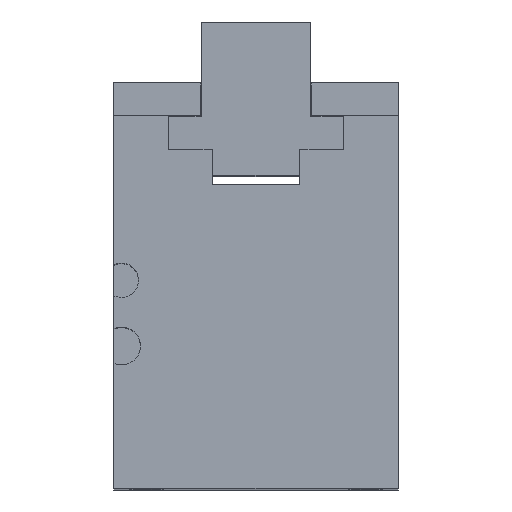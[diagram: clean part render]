
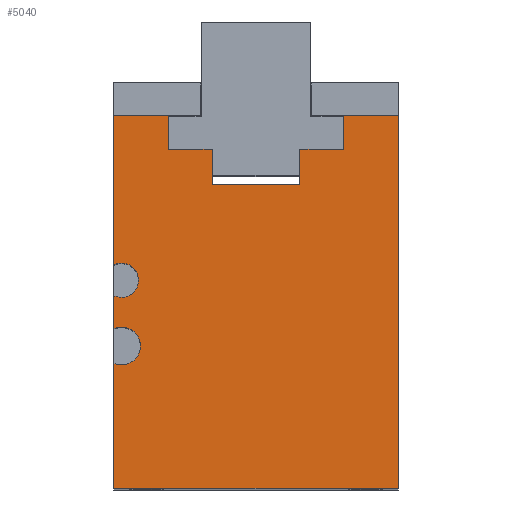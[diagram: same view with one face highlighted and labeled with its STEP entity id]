
A CAD part, top view. The second image highlights one B-rep face of the part: STEP entity #5040.
In plain terms, the highlighted planar face has unit normal (0, 0, 1).
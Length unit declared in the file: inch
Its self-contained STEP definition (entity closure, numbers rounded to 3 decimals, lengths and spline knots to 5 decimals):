
#45 = ORIENTED_EDGE ( 'NONE', *, *, #6990, .F. ) ;
#89 = LINE ( 'NONE', #169, #4414 ) ;
#109 = ORIENTED_EDGE ( 'NONE', *, *, #2727, .T. ) ;
#113 = CARTESIAN_POINT ( 'NONE',  ( 0., 0., 0. ) ) ;
#169 = CARTESIAN_POINT ( 'NONE',  ( 0.3125, 1.935, 0. ) ) ;
#236 = EDGE_CURVE ( 'NONE', #2855, #1654, #89, .T. ) ;
#293 = VECTOR ( 'NONE', #2076, 39.37008 ) ;
#318 = VERTEX_POINT ( 'NONE', #7624 ) ;
#323 = AXIS2_PLACEMENT_3D ( 'NONE', #777, #5080, #1403 ) ;
#377 = VERTEX_POINT ( 'NONE', #4985 ) ;
#407 = VERTEX_POINT ( 'NONE', #625 ) ;
#426 = ORIENTED_EDGE ( 'NONE', *, *, #6592, .T. ) ;
#448 = EDGE_CURVE ( 'NONE', #2346, #1259, #3664, .T. ) ;
#625 = CARTESIAN_POINT ( 'NONE',  ( 1.625, 2.125, 0. ) ) ;
#652 = VECTOR ( 'NONE', #2521, 39.37008 ) ;
#702 = VERTEX_POINT ( 'NONE', #4238 ) ;
#740 = LINE ( 'NONE', #5365, #5435 ) ;
#777 = CARTESIAN_POINT ( 'NONE',  ( 0.045, 1.1875, 0. ) ) ;
#853 = LINE ( 'NONE', #2688, #652 ) ;
#880 = VECTOR ( 'NONE', #6835, 39.37008 ) ;
#913 = VERTEX_POINT ( 'NONE', #1521 ) ;
#1030 = VERTEX_POINT ( 'NONE', #7077 ) ;
#1259 = VERTEX_POINT ( 'NONE', #5540 ) ;
#1318 = EDGE_CURVE ( 'NONE', #318, #702, #7667, .T. ) ;
#1403 = DIRECTION ( 'NONE',  ( -1., 0., 0. ) ) ;
#1452 = CARTESIAN_POINT ( 'NONE',  ( 0., 0., 0. ) ) ;
#1482 = DIRECTION ( 'NONE',  ( 0., 0., -1. ) ) ;
#1521 = CARTESIAN_POINT ( 'NONE',  ( 0., 1.27457, 0. ) ) ;
#1563 = CARTESIAN_POINT ( 'NONE',  ( 0.14301, 1.1875, 0. ) ) ;
#1634 = VECTOR ( 'NONE', #6276, 39.37008 ) ;
#1654 = VERTEX_POINT ( 'NONE', #5237 ) ;
#1680 = LINE ( 'NONE', #4677, #3337 ) ;
#1773 = CARTESIAN_POINT ( 'NONE',  ( 0., 2.125, 0. ) ) ;
#2021 = DIRECTION ( 'NONE',  ( 0., 1., 0. ) ) ;
#2066 = VECTOR ( 'NONE', #6999, 39.37008 ) ;
#2076 = DIRECTION ( 'NONE',  ( 0., -1., 0. ) ) ;
#2156 = EDGE_CURVE ( 'NONE', #377, #3840, #853, .T. ) ;
#2326 = VERTEX_POINT ( 'NONE', #5112 ) ;
#2346 = VERTEX_POINT ( 'NONE', #7076 ) ;
#2380 = VECTOR ( 'NONE', #3780, 39.37008 ) ;
#2399 = VERTEX_POINT ( 'NONE', #1563 ) ;
#2402 = DIRECTION ( 'NONE',  ( -1., 0., 0. ) ) ;
#2406 = ORIENTED_EDGE ( 'NONE', *, *, #2156, .F. ) ;
#2497 = LINE ( 'NONE', #1773, #5539 ) ;
#2521 = DIRECTION ( 'NONE',  ( 0., 1., 0. ) ) ;
#2564 = VECTOR ( 'NONE', #2021, 39.37008 ) ;
#2597 = CARTESIAN_POINT ( 'NONE',  ( 1.625, 0., 0. ) ) ;
#2637 = ORIENTED_EDGE ( 'NONE', *, *, #6150, .F. ) ;
#2641 = DIRECTION ( 'NONE',  ( 0., 0., -1. ) ) ;
#2646 = AXIS2_PLACEMENT_3D ( 'NONE', #6306, #2641, #6930 ) ;
#2688 = CARTESIAN_POINT ( 'NONE',  ( 1.0625, 1.935, 0. ) ) ;
#2721 = VERTEX_POINT ( 'NONE', #6034 ) ;
#2727 = EDGE_CURVE ( 'NONE', #407, #2721, #2497, .T. ) ;
#2735 = CARTESIAN_POINT ( 'NONE',  ( 0., 0., 0. ) ) ;
#2855 = VERTEX_POINT ( 'NONE', #4962 ) ;
#2903 = AXIS2_PLACEMENT_3D ( 'NONE', #5267, #7757, #4074 ) ;
#3024 = EDGE_CURVE ( 'NONE', #5024, #2721, #740, .T. ) ;
#3100 = ORIENTED_EDGE ( 'NONE', *, *, #448, .T. ) ;
#3174 = CARTESIAN_POINT ( 'NONE',  ( 1.0625, 1.935, 0. ) ) ;
#3337 = VECTOR ( 'NONE', #3460, 39.37008 ) ;
#3460 = DIRECTION ( 'NONE',  ( 0., -1., 0. ) ) ;
#3573 = LINE ( 'NONE', #3870, #5002 ) ;
#3623 = DIRECTION ( 'NONE',  ( 0., 0., -1. ) ) ;
#3664 = LINE ( 'NONE', #113, #1634 ) ;
#3780 = DIRECTION ( 'NONE',  ( 1., 0., 0. ) ) ;
#3814 = LINE ( 'NONE', #3174, #2380 ) ;
#3829 = EDGE_CURVE ( 'NONE', #1259, #7315, #6268, .T. ) ;
#3840 = VERTEX_POINT ( 'NONE', #6618 ) ;
#3870 = CARTESIAN_POINT ( 'NONE',  ( 0.5625, 1.735, 0. ) ) ;
#3966 = LINE ( 'NONE', #1452, #293 ) ;
#4074 = DIRECTION ( 'NONE',  ( -1., 0., 0. ) ) ;
#4198 = EDGE_CURVE ( 'NONE', #5113, #2855, #5783, .T. ) ;
#4220 = ORIENTED_EDGE ( 'NONE', *, *, #7346, .T. ) ;
#4234 = AXIS2_PLACEMENT_3D ( 'NONE', #5151, #1482, #5771 ) ;
#4238 = CARTESIAN_POINT ( 'NONE',  ( 0.15348, 0.8125, 0. ) ) ;
#4360 = ORIENTED_EDGE ( 'NONE', *, *, #236, .F. ) ;
#4414 = VECTOR ( 'NONE', #4470, 39.37008 ) ;
#4436 = VECTOR ( 'NONE', #5342, 39.37008 ) ;
#4470 = DIRECTION ( 'NONE',  ( 1., 0., 0. ) ) ;
#4477 = CARTESIAN_POINT ( 'NONE',  ( 1.625, 0., 0. ) ) ;
#4646 = CIRCLE ( 'NONE', #323, 0.09801 ) ;
#4677 = CARTESIAN_POINT ( 'NONE',  ( 0.5625, 1.935, 0. ) ) ;
#4824 = EDGE_CURVE ( 'NONE', #702, #2346, #7038, .T. ) ;
#4878 = EDGE_CURVE ( 'NONE', #1030, #318, #3966, .T. ) ;
#4880 = EDGE_CURVE ( 'NONE', #2326, #377, #3573, .T. ) ;
#4962 = CARTESIAN_POINT ( 'NONE',  ( 0.3125, 1.935, 0. ) ) ;
#4985 = CARTESIAN_POINT ( 'NONE',  ( 1.0625, 1.735, 0. ) ) ;
#5002 = VECTOR ( 'NONE', #6358, 39.37008 ) ;
#5024 = VERTEX_POINT ( 'NONE', #5245 ) ;
#5040 = ADVANCED_FACE ( 'NONE', ( #5864 ), #7136, .F. ) ;
#5074 = CARTESIAN_POINT ( 'NONE',  ( 0., 2.125, 0. ) ) ;
#5080 = DIRECTION ( 'NONE',  ( 0., 0., -1. ) ) ;
#5092 = EDGE_LOOP ( 'NONE', ( #6211, #6898, #6503, #3100, #6047, #6235, #109, #5903, #2637, #2406, #5951, #45, #4360, #6021, #426, #6316, #5962, #4220 ) ) ;
#5112 = CARTESIAN_POINT ( 'NONE',  ( 0.5625, 1.735, 0. ) ) ;
#5113 = VERTEX_POINT ( 'NONE', #7814 ) ;
#5151 = CARTESIAN_POINT ( 'NONE',  ( 0.045, 1.1875, 0. ) ) ;
#5237 = CARTESIAN_POINT ( 'NONE',  ( 0.5625, 1.935, 0. ) ) ;
#5245 = CARTESIAN_POINT ( 'NONE',  ( 1.3125, 1.935, 0. ) ) ;
#5267 = CARTESIAN_POINT ( 'NONE',  ( 0., 0., 0. ) ) ;
#5342 = DIRECTION ( 'NONE',  ( 1., 0., 0. ) ) ;
#5365 = CARTESIAN_POINT ( 'NONE',  ( 1.3125, 2.125, 0. ) ) ;
#5406 = CIRCLE ( 'NONE', #4234, 0.09801 ) ;
#5435 = VECTOR ( 'NONE', #7837, 39.37008 ) ;
#5493 = LINE ( 'NONE', #2735, #2066 ) ;
#5539 = VECTOR ( 'NONE', #2402, 39.37008 ) ;
#5540 = CARTESIAN_POINT ( 'NONE',  ( 0., 0., 0. ) ) ;
#5620 = LINE ( 'NONE', #4477, #2564 ) ;
#5690 = DIRECTION ( 'NONE',  ( -1., 0., 0. ) ) ;
#5771 = DIRECTION ( 'NONE',  ( -1., 0., 0. ) ) ;
#5783 = LINE ( 'NONE', #7464, #880 ) ;
#5817 = VECTOR ( 'NONE', #5690, 39.37008 ) ;
#5864 = FACE_OUTER_BOUND ( 'NONE', #5092, .T. ) ;
#5867 = CARTESIAN_POINT ( 'NONE',  ( 0.045, 0.8125, 0. ) ) ;
#5903 = ORIENTED_EDGE ( 'NONE', *, *, #3024, .F. ) ;
#5951 = ORIENTED_EDGE ( 'NONE', *, *, #4880, .F. ) ;
#5962 = ORIENTED_EDGE ( 'NONE', *, *, #6669, .T. ) ;
#6021 = ORIENTED_EDGE ( 'NONE', *, *, #4198, .F. ) ;
#6034 = CARTESIAN_POINT ( 'NONE',  ( 1.3125, 2.125, 0. ) ) ;
#6047 = ORIENTED_EDGE ( 'NONE', *, *, #3829, .T. ) ;
#6150 = EDGE_CURVE ( 'NONE', #3840, #5024, #3814, .T. ) ;
#6211 = ORIENTED_EDGE ( 'NONE', *, *, #4878, .T. ) ;
#6235 = ORIENTED_EDGE ( 'NONE', *, *, #6620, .T. ) ;
#6268 = LINE ( 'NONE', #6591, #4436 ) ;
#6276 = DIRECTION ( 'NONE',  ( 0., -1., 0. ) ) ;
#6306 = CARTESIAN_POINT ( 'NONE',  ( 0.045, 0.8125, 0. ) ) ;
#6316 = ORIENTED_EDGE ( 'NONE', *, *, #7416, .T. ) ;
#6358 = DIRECTION ( 'NONE',  ( 1., 0., 0. ) ) ;
#6503 = ORIENTED_EDGE ( 'NONE', *, *, #4824, .T. ) ;
#6591 = CARTESIAN_POINT ( 'NONE',  ( 0., 0., 0. ) ) ;
#6592 = EDGE_CURVE ( 'NONE', #5113, #7285, #7459, .T. ) ;
#6618 = CARTESIAN_POINT ( 'NONE',  ( 1.0625, 1.935, 0. ) ) ;
#6620 = EDGE_CURVE ( 'NONE', #7315, #407, #5620, .T. ) ;
#6669 = EDGE_CURVE ( 'NONE', #913, #2399, #5406, .T. ) ;
#6817 = AXIS2_PLACEMENT_3D ( 'NONE', #5867, #3623, #7297 ) ;
#6835 = DIRECTION ( 'NONE',  ( 0., -1., 0. ) ) ;
#6898 = ORIENTED_EDGE ( 'NONE', *, *, #1318, .T. ) ;
#6930 = DIRECTION ( 'NONE',  ( -1., 0., 0. ) ) ;
#6990 = EDGE_CURVE ( 'NONE', #1654, #2326, #1680, .T. ) ;
#6999 = DIRECTION ( 'NONE',  ( 0., -1., 0. ) ) ;
#7038 = CIRCLE ( 'NONE', #2646, 0.10848 ) ;
#7076 = CARTESIAN_POINT ( 'NONE',  ( 0., 0.71379, 0. ) ) ;
#7077 = CARTESIAN_POINT ( 'NONE',  ( 0., 1.10043, 0. ) ) ;
#7136 = PLANE ( 'NONE',  #2903 ) ;
#7285 = VERTEX_POINT ( 'NONE', #7450 ) ;
#7297 = DIRECTION ( 'NONE',  ( -1., 0., 0. ) ) ;
#7315 = VERTEX_POINT ( 'NONE', #2597 ) ;
#7346 = EDGE_CURVE ( 'NONE', #2399, #1030, #4646, .T. ) ;
#7416 = EDGE_CURVE ( 'NONE', #7285, #913, #5493, .T. ) ;
#7450 = CARTESIAN_POINT ( 'NONE',  ( 0., 2.125, 0. ) ) ;
#7459 = LINE ( 'NONE', #5074, #5817 ) ;
#7464 = CARTESIAN_POINT ( 'NONE',  ( 0.3125, 2.125, 0. ) ) ;
#7624 = CARTESIAN_POINT ( 'NONE',  ( 0., 0.91121, 0. ) ) ;
#7667 = CIRCLE ( 'NONE', #6817, 0.10848 ) ;
#7757 = DIRECTION ( 'NONE',  ( 0., 0., -1. ) ) ;
#7814 = CARTESIAN_POINT ( 'NONE',  ( 0.3125, 2.125, 0. ) ) ;
#7837 = DIRECTION ( 'NONE',  ( 0., 1., 0. ) ) ;
